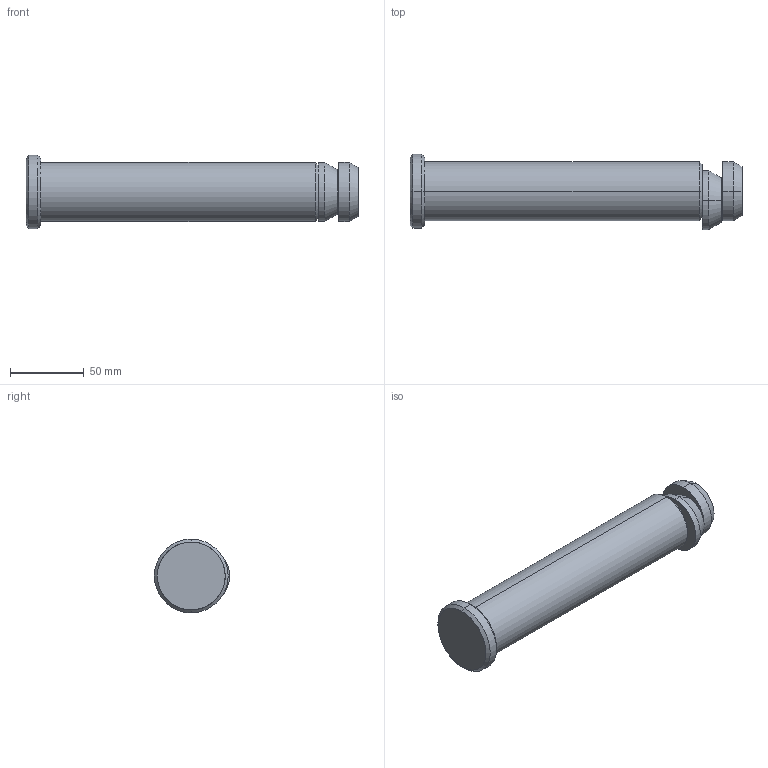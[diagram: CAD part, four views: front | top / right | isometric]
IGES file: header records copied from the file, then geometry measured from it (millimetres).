
Start section: START RECORD GO HERE.
Global section: file name: 395A-040-225.igs; native system: DASSAULT SYSTEMES CATIA V5 R20 - www.3ds.com; preprocessor: CATIA Version 5 Release 20 ; author: Utente; organization: NB04-ASUS; date: 20200409.142918; units: millimetre
Bounding box: 225 x 51 x 50 mm (x, y, z)
Surface area: 34170.3 mm2 (no closed solid volume)
Topology: 0 solids, 0 shells, 43 faces, 189 edges, 189 vertices
Faces by surface type: revolution 30, extrusion 13
